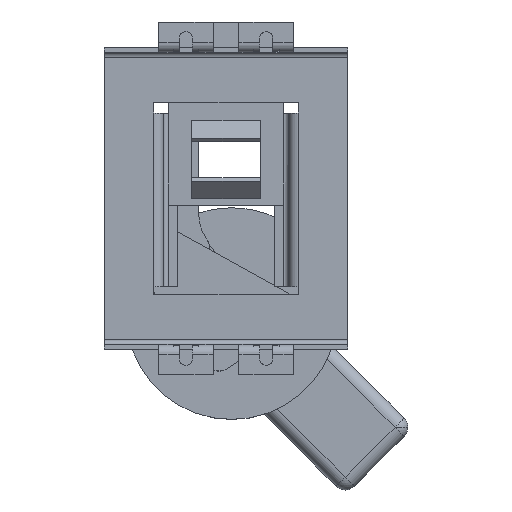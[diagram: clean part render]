
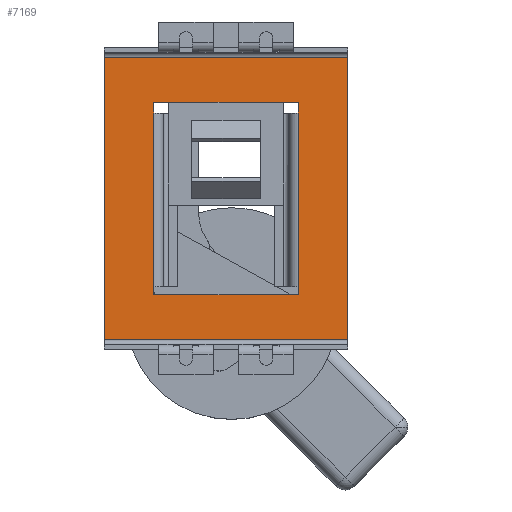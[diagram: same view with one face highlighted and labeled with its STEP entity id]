
A CAD part, top view. The second image highlights one B-rep face of the part: STEP entity #7169.
In plain terms, the highlighted planar face has unit normal (0, 0, 1).
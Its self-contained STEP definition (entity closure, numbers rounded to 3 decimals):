
#40 = DIRECTION ( 'NONE',  ( 1., 0., 0. ) ) ;
#62 = CARTESIAN_POINT ( 'NONE',  ( -22.5, 30., 1.5 ) ) ;
#305 = VERTEX_POINT ( 'NONE', #1544 ) ;
#329 = VERTEX_POINT ( 'NONE', #4214 ) ;
#342 = CARTESIAN_POINT ( 'NONE',  ( 22.5, 45.5, 1.5 ) ) ;
#344 = EDGE_CURVE ( 'NONE', #4050, #2851, #3033, .T. ) ;
#651 = LINE ( 'NONE', #7097, #2054 ) ;
#671 = CARTESIAN_POINT ( 'NONE',  ( 38., -44., 1.5 ) ) ;
#924 = ORIENTED_EDGE ( 'NONE', *, *, #5597, .T. ) ;
#937 = EDGE_CURVE ( 'NONE', #4772, #4050, #4677, .T. ) ;
#1093 = ORIENTED_EDGE ( 'NONE', *, *, #7106, .T. ) ;
#1188 = DIRECTION ( 'NONE',  ( 0., 1., 0. ) ) ;
#1189 = EDGE_CURVE ( 'NONE', #8250, #7718, #6641, .T. ) ;
#1300 = PLANE ( 'NONE',  #3583 ) ;
#1348 = CARTESIAN_POINT ( 'NONE',  ( -52., 45.5, 1.5 ) ) ;
#1417 = DIRECTION ( 'NONE',  ( 1., 0., 0. ) ) ;
#1423 = VERTEX_POINT ( 'NONE', #1641 ) ;
#1498 = VECTOR ( 'NONE', #7306, 1000. ) ;
#1507 = ORIENTED_EDGE ( 'NONE', *, *, #5048, .T. ) ;
#1517 = DIRECTION ( 'NONE',  ( 0., -1., 0. ) ) ;
#1544 = CARTESIAN_POINT ( 'NONE',  ( -22.5, -30., 1.5 ) ) ;
#1641 = CARTESIAN_POINT ( 'NONE',  ( 38., -44., 1.5 ) ) ;
#1941 = DIRECTION ( 'NONE',  ( 0., 1., 0. ) ) ;
#2024 = VECTOR ( 'NONE', #8249, 1000. ) ;
#2054 = VECTOR ( 'NONE', #1188, 1000. ) ;
#2101 = EDGE_CURVE ( 'NONE', #6378, #329, #4747, .T. ) ;
#2294 = VERTEX_POINT ( 'NONE', #3682 ) ;
#2336 = CARTESIAN_POINT ( 'NONE',  ( -38., 44., 1.5 ) ) ;
#2466 = VECTOR ( 'NONE', #4698, 1000. ) ;
#2682 = VECTOR ( 'NONE', #1417, 1000. ) ;
#2740 = CARTESIAN_POINT ( 'NONE',  ( 22.5, 26.655, 1.5 ) ) ;
#2747 = ORIENTED_EDGE ( 'NONE', *, *, #4309, .T. ) ;
#2793 = CARTESIAN_POINT ( 'NONE',  ( -22.5, 45.5, 1.5 ) ) ;
#2851 = VERTEX_POINT ( 'NONE', #6740 ) ;
#3005 = ORIENTED_EDGE ( 'NONE', *, *, #3802, .F. ) ;
#3013 = VECTOR ( 'NONE', #40, 1000. ) ;
#3033 = LINE ( 'NONE', #342, #8089 ) ;
#3205 = DIRECTION ( 'NONE',  ( 0., -1., 0. ) ) ;
#3389 = LINE ( 'NONE', #7269, #2466 ) ;
#3583 = AXIS2_PLACEMENT_3D ( 'NONE', #1348, #7284, #5871 ) ;
#3666 = EDGE_CURVE ( 'NONE', #1423, #5505, #651, .T. ) ;
#3682 = CARTESIAN_POINT ( 'NONE',  ( -38., -44., 1.5 ) ) ;
#3741 = DIRECTION ( 'NONE',  ( -1., 0., 0. ) ) ;
#3802 = EDGE_CURVE ( 'NONE', #2294, #4894, #3389, .T. ) ;
#3828 = CARTESIAN_POINT ( 'NONE',  ( -52., -30., 1.5 ) ) ;
#4050 = VERTEX_POINT ( 'NONE', #4525 ) ;
#4070 = ORIENTED_EDGE ( 'NONE', *, *, #6250, .T. ) ;
#4167 = CARTESIAN_POINT ( 'NONE',  ( -52., 30., 1.5 ) ) ;
#4214 = CARTESIAN_POINT ( 'NONE',  ( 22.5, 30., 1.5 ) ) ;
#4261 = DIRECTION ( 'NONE',  ( 0., 1., 0. ) ) ;
#4309 = EDGE_CURVE ( 'NONE', #7718, #6378, #6054, .T. ) ;
#4434 = FACE_BOUND ( 'NONE', #6871, .T. ) ;
#4525 = CARTESIAN_POINT ( 'NONE',  ( 22.5, -27.458, 1.5 ) ) ;
#4553 = CARTESIAN_POINT ( 'NONE',  ( -22.5, 26.655, 1.5 ) ) ;
#4559 = VECTOR ( 'NONE', #3205, 1000. ) ;
#4565 = LINE ( 'NONE', #2793, #6854 ) ;
#4584 = LINE ( 'NONE', #5157, #1498 ) ;
#4677 = LINE ( 'NONE', #6495, #4559 ) ;
#4698 = DIRECTION ( 'NONE',  ( 0., 1., 0. ) ) ;
#4747 = LINE ( 'NONE', #4167, #2682 ) ;
#4772 = VERTEX_POINT ( 'NONE', #2740 ) ;
#4894 = VERTEX_POINT ( 'NONE', #2336 ) ;
#5048 = EDGE_CURVE ( 'NONE', #329, #4772, #4584, .T. ) ;
#5157 = CARTESIAN_POINT ( 'NONE',  ( 22.5, 45.5, 1.5 ) ) ;
#5182 = VECTOR ( 'NONE', #3741, 1000. ) ;
#5300 = VECTOR ( 'NONE', #6452, 1000. ) ;
#5394 = VECTOR ( 'NONE', #1941, 1000. ) ;
#5505 = VERTEX_POINT ( 'NONE', #7518 ) ;
#5597 = EDGE_CURVE ( 'NONE', #305, #8250, #4565, .T. ) ;
#5606 = LINE ( 'NONE', #7208, #5300 ) ;
#5666 = EDGE_LOOP ( 'NONE', ( #8080, #4070, #3005, #6459 ) ) ;
#5871 = DIRECTION ( 'NONE',  ( 0., 1., 0. ) ) ;
#5878 = EDGE_CURVE ( 'NONE', #2294, #1423, #6945, .T. ) ;
#6054 = LINE ( 'NONE', #7507, #2024 ) ;
#6197 = ORIENTED_EDGE ( 'NONE', *, *, #937, .T. ) ;
#6250 = EDGE_CURVE ( 'NONE', #5505, #4894, #5606, .T. ) ;
#6289 = ORIENTED_EDGE ( 'NONE', *, *, #344, .T. ) ;
#6303 = ORIENTED_EDGE ( 'NONE', *, *, #1189, .T. ) ;
#6329 = LINE ( 'NONE', #3828, #5182 ) ;
#6378 = VERTEX_POINT ( 'NONE', #62 ) ;
#6452 = DIRECTION ( 'NONE',  ( -1., 0., 0. ) ) ;
#6459 = ORIENTED_EDGE ( 'NONE', *, *, #5878, .T. ) ;
#6495 = CARTESIAN_POINT ( 'NONE',  ( 22.5, -27.458, 1.5 ) ) ;
#6641 = LINE ( 'NONE', #4553, #5394 ) ;
#6740 = CARTESIAN_POINT ( 'NONE',  ( 22.5, -30., 1.5 ) ) ;
#6795 = CARTESIAN_POINT ( 'NONE',  ( -22.5, -27.458, 1.5 ) ) ;
#6827 = FACE_OUTER_BOUND ( 'NONE', #5666, .T. ) ;
#6854 = VECTOR ( 'NONE', #4261, 1000. ) ;
#6871 = EDGE_LOOP ( 'NONE', ( #1507, #6197, #6289, #1093, #924, #6303, #2747, #7047 ) ) ;
#6945 = LINE ( 'NONE', #671, #3013 ) ;
#7047 = ORIENTED_EDGE ( 'NONE', *, *, #2101, .T. ) ;
#7097 = CARTESIAN_POINT ( 'NONE',  ( 38., 45.5, 1.5 ) ) ;
#7106 = EDGE_CURVE ( 'NONE', #2851, #305, #6329, .T. ) ;
#7169 = ADVANCED_FACE ( 'NONE', ( #4434, #6827 ), #1300, .F. ) ;
#7208 = CARTESIAN_POINT ( 'NONE',  ( -38., 44., 1.5 ) ) ;
#7269 = CARTESIAN_POINT ( 'NONE',  ( -38., -47., 1.5 ) ) ;
#7278 = CARTESIAN_POINT ( 'NONE',  ( -22.5, 26.655, 1.5 ) ) ;
#7284 = DIRECTION ( 'NONE',  ( 0., 0., -1. ) ) ;
#7306 = DIRECTION ( 'NONE',  ( 0., -1., 0. ) ) ;
#7507 = CARTESIAN_POINT ( 'NONE',  ( -22.5, 45.5, 1.5 ) ) ;
#7518 = CARTESIAN_POINT ( 'NONE',  ( 38., 44., 1.5 ) ) ;
#7718 = VERTEX_POINT ( 'NONE', #7278 ) ;
#8080 = ORIENTED_EDGE ( 'NONE', *, *, #3666, .T. ) ;
#8089 = VECTOR ( 'NONE', #1517, 1000. ) ;
#8249 = DIRECTION ( 'NONE',  ( 0., 1., 0. ) ) ;
#8250 = VERTEX_POINT ( 'NONE', #6795 ) ;
